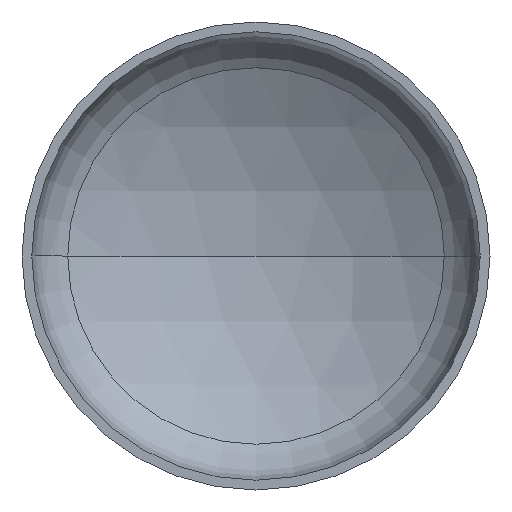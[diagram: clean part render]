
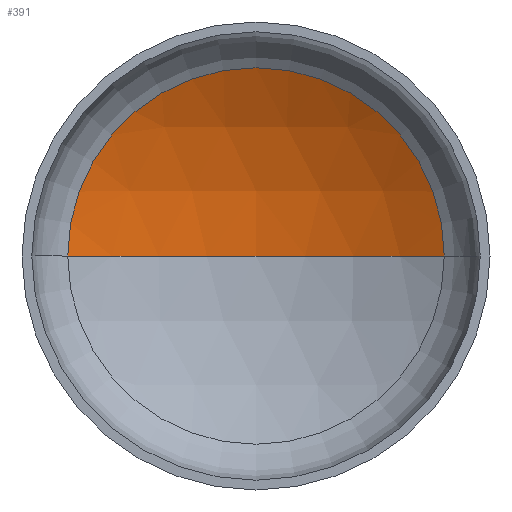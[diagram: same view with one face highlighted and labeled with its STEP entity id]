
A CAD part, front view. The second image highlights one B-rep face of the part: STEP entity #391.
In plain terms, the highlighted spherical face has radius 1760 mm.
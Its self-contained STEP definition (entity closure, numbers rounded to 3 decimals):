
#14 = EDGE_LOOP ( 'NONE', ( #22, #53, #41 ) ) ;
#22 = ORIENTED_EDGE ( 'NONE', *, *, #203, .F. ) ;
#32 = VERTEX_POINT ( 'NONE', #368 ) ;
#41 = ORIENTED_EDGE ( 'NONE', *, *, #198, .T. ) ;
#52 = VERTEX_POINT ( 'NONE', #288 ) ;
#53 = ORIENTED_EDGE ( 'NONE', *, *, #199, .T. ) ;
#81 = VERTEX_POINT ( 'NONE', #235 ) ;
#90 = AXIS2_PLACEMENT_3D ( 'NONE', #242, #238, #237 ) ;
#97 = AXIS2_PLACEMENT_3D ( 'NONE', #258, #254, #274 ) ;
#108 = AXIS2_PLACEMENT_3D ( 'NONE', #211, #223, #214 ) ;
#148 = AXIS2_PLACEMENT_3D ( 'NONE', #161, #252, #383 ) ;
#152 = SPHERICAL_SURFACE ( 'NONE', #148, 1760. ) ;
#161 = CARTESIAN_POINT ( 'NONE',  ( 0., -1087.438, 0. ) ) ;
#163 = FACE_OUTER_BOUND ( 'NONE', #14, .T. ) ;
#198 = EDGE_CURVE ( 'NONE', #52, #32, #389, .T. ) ;
#199 = EDGE_CURVE ( 'NONE', #81, #52, #335, .T. ) ;
#203 = EDGE_CURVE ( 'NONE', #81, #32, #209, .T. ) ;
#209 = CIRCLE ( 'NONE', #90, 1760. ) ;
#211 = CARTESIAN_POINT ( 'NONE',  ( 0., 433.894, 0. ) ) ;
#214 = DIRECTION ( 'NONE',  ( 1., 0., 0. ) ) ;
#223 = DIRECTION ( 'NONE',  ( 0., -1., 0. ) ) ;
#235 = CARTESIAN_POINT ( 'NONE',  ( 0., 672.562, 0. ) ) ;
#237 = DIRECTION ( 'NONE',  ( 1., 0., 0. ) ) ;
#238 = DIRECTION ( 'NONE',  ( 0., 0., 1. ) ) ;
#242 = CARTESIAN_POINT ( 'NONE',  ( 0., -1087.438, 0. ) ) ;
#252 = DIRECTION ( 'NONE',  ( 0., 0., -1. ) ) ;
#254 = DIRECTION ( 'NONE',  ( 0., 0., -1. ) ) ;
#258 = CARTESIAN_POINT ( 'NONE',  ( 0., -1087.438, 0. ) ) ;
#274 = DIRECTION ( 'NONE',  ( -1., 0., 0. ) ) ;
#288 = CARTESIAN_POINT ( 'NONE',  ( 884.958, 433.894, 0. ) ) ;
#335 = CIRCLE ( 'NONE', #97, 1760. ) ;
#368 = CARTESIAN_POINT ( 'NONE',  ( -884.958, 433.894, 0. ) ) ;
#383 = DIRECTION ( 'NONE',  ( -1., 0., 0. ) ) ;
#389 = CIRCLE ( 'NONE', #108, 884.958 ) ;
#391 = ADVANCED_FACE ( 'NONE', ( #163 ), #152, .F. ) ;
